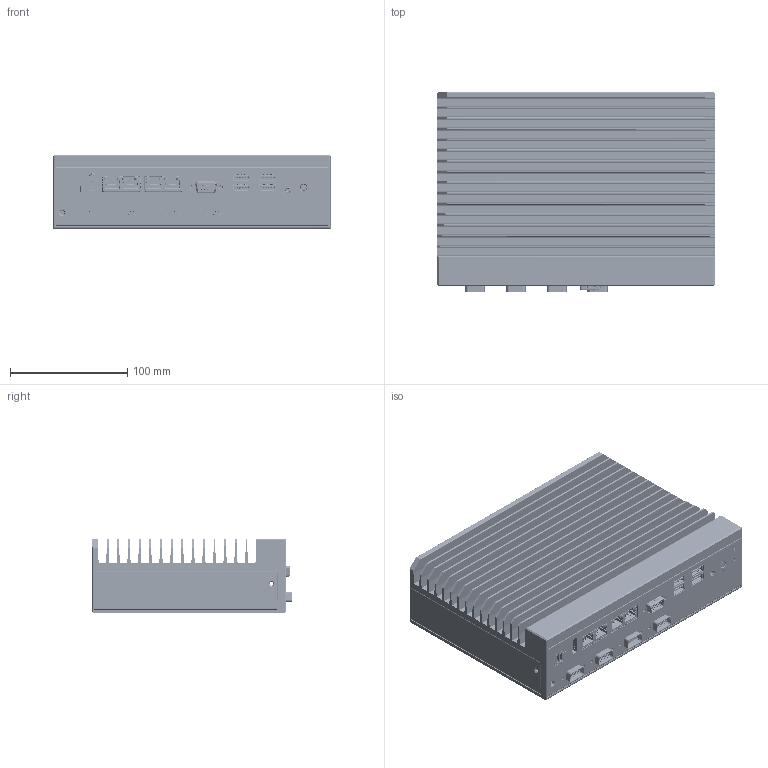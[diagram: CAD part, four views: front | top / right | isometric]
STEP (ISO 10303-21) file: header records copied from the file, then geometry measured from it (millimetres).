
FILE_DESCRIPTION(('FreeCAD Model'),'2;1');
FILE_NAME('Open CASCADE Shape Model','2025-03-12T17:31:54',(''),(''), 'Open CASCADE STEP processor 7.7','Ondsel','Unknown');
FILE_SCHEMA(('AUTOMOTIVE_DESIGN { 1 0 10303 214 1 1 1 1 }'));
Length unit declared in the file: millimetre
Products named in the file (251): E612-35A0-A_ASM; E612-35A0_ASM_1_ASM; ASM0001_ASM_1_ASM_1_ASM; RXE-35A0-CASE_ASM_55_ASM_1_ASM__ASM; RXE-310020200414000001_ASM_1_AS_ASM; PRT0002_1_1; RXE-3100-V0_9-20200330_SL-11605; BASE1_12_1_1; MB-IO-1_ASM_15_ASM_1_ASM_1_ASM; Part; COM-9PIN_5_1_1; COM-9PIN_5_1_002; COM-9PIN_5_1_003; COM-9PIN_5_1_004; Body; MB-35B0_ASM; 35B0-PCB-T; 35B0-PCB-B; 4P-CONNEC; LED; RT20-1111X4-XXXX-8PIN_ASM; RT20-1111XK-XXXX-8PIN_ASM; HRG-P110_LED_W_SHE0001; HRG-S110_W_LED_W_ALL_SPN_; Z24-20XX_RIGHT_LED0001_ASM; U2-34702000; 1200; U1-34832000; IC2-3512000; 13-3525900; IC1-3535000; EXTRUDE1-35387; Z24-20XX-RIGHT_RIGHT_LED_-58405_ASM002; U1-34817000_1_1_1_003; EXTRUDE1-34844_1_1_1_003; IC2-3488700_1_1_1_003; 11-3513400_1_1_1_003; IC1-3527400_1_1_1_003; 13-3528200_1_1_1_003; U2-35368000_1_1_1_003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
Assembly tree (250 placements, depth 11):
  E612-35A0-A_ASM
    E612-35A0_ASM_1_ASM
      ASM0001_ASM_1_ASM_1_ASM
        RXE-35A0-CASE_ASM_55_ASM_1_ASM__ASM
          RXE-310020200414000001_ASM_1_AS_ASM
            PRT0002_1_1
            RXE-3100-V0_9-20200330_SL-11605
          BASE1_12_1_1
          MB-IO-1_ASM_15_ASM_1_ASM_1_ASM
            Part
              COM-9PIN_5_1_1
              COM-9PIN_5_1_002
              COM-9PIN_5_1_003
              COM-9PIN_5_1_004
          Body
    MB-35B0_ASM
      35B0-PCB-T
      35B0-PCB-B
      4P-CONNEC
      LED
      RT20-1111X4-XXXX-8PIN_ASM
        RT20-1111XK-XXXX-8PIN_ASM
          HRG-P110_LED_W_SHE0001
          HRG-S110_W_LED_W_ALL_SPN_
          Z24-20XX_RIGHT_LED0001_ASM
            U2-34702000
            1200
            U1-34832000
            IC2-3512000
            13-3525900
            IC1-3535000
            EXTRUDE1-35387
          Z24-20XX-RIGHT_RIGHT_LED_-58405_ASM002
            U1-34817000_1_1_1_003
            EXTRUDE1-34844_1_1_1_003
            IC2-3488700_1_1_1_003
            11-3513400_1_1_1_003
            IC1-3527400_1_1_1_003
            13-3528200_1_1_1_003
            U2-35368000_1_1_1_003
          HR1-C110_A__TYPE--0001_ASM
            S-347200001
            S-347420001
            S-347460001
            S-347970001
            S-350140001
            S-351130001
            S-352900001
            S-353570001
          HR1-C120_B__TYPE--0001_ASM
            _11-346170001
            _11-347260001
            _11-347760001
            _11-348970001
            _11-351170001
            _11-352640001
            _11-353390001
            _11-353840001
          Z24-20XX-RIGHT_RIGHT_LED_-60728_ASM002
            U2-34766000_1_1_1_003
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Bounding box: 236 x 169.87 x 63.5 mm (x, y, z)
Volume: 726447.8 mm3; surface area: 592483.2 mm2
Topology: 199 solids, 201 shells, 19803 faces, 54673 edges, 34917 vertices
Faces by surface type: plane 13224, cylinder 5229, bspline 628, sphere 315, torus 203, cone 177, extrusion 27
Full cylindrical faces by diameter (mm): 1 x1, 2.8 x8, 3 x2, 3.5 x2, 4 x1, 5 x2, 5.4 x1, 5.5 x1, 6 x1
Entity records: 663561 total; most frequent: CARTESIAN_POINT 152412, ORIENTED_EDGE 108506, DIRECTION 101230, EDGE_CURVE 54279, VECTOR 41358, LINE 41331, VERTEX_POINT 34917, AXIS2_PLACEMENT_3D 29936
